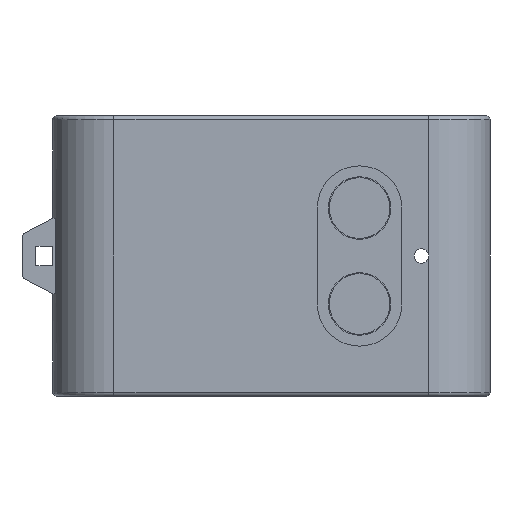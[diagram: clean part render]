
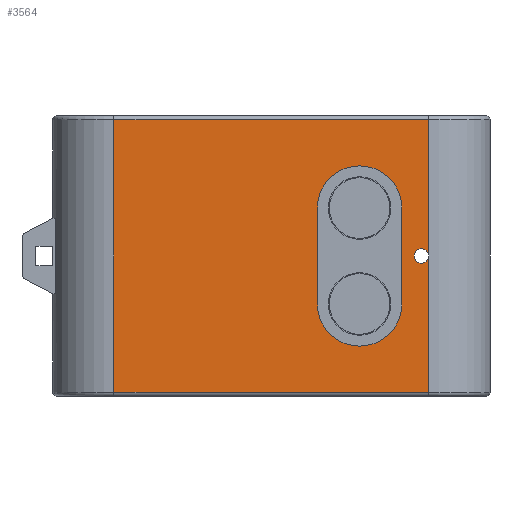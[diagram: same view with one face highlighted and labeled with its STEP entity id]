
A CAD part, front view. The second image highlights one B-rep face of the part: STEP entity #3564.
In plain terms, the highlighted planar face has unit normal (0, -1, 0).
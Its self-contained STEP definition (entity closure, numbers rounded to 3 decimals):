
#45 = VECTOR ( 'NONE', #1368, 1000. ) ;
#56 = CARTESIAN_POINT ( 'NONE',  ( 20.516, -7.5, -17.75 ) ) ;
#118 = DIRECTION ( 'NONE',  ( 0., 0., 1. ) ) ;
#144 = CARTESIAN_POINT ( 'NONE',  ( -20.516, -7.5, -18.25 ) ) ;
#150 = DIRECTION ( 'NONE',  ( -1., 0., 0. ) ) ;
#164 = DIRECTION ( 'NONE',  ( 0., 1., 0. ) ) ;
#176 = CARTESIAN_POINT ( 'NONE',  ( 19.55, -7.5, 0. ) ) ;
#202 = ORIENTED_EDGE ( 'NONE', *, *, #3910, .F. ) ;
#243 = AXIS2_PLACEMENT_3D ( 'NONE', #3706, #3687, #1895 ) ;
#271 = AXIS2_PLACEMENT_3D ( 'NONE', #1761, #1931, #2525 ) ;
#297 = CARTESIAN_POINT ( 'NONE',  ( 20.516, -7.5, -18.25 ) ) ;
#318 = DIRECTION ( 'NONE',  ( 0., 0., 1. ) ) ;
#328 = CARTESIAN_POINT ( 'NONE',  ( 20.5, -7.5, 0. ) ) ;
#351 = LINE ( 'NONE', #2992, #3390 ) ;
#376 = ORIENTED_EDGE ( 'NONE', *, *, #3325, .T. ) ;
#428 = VERTEX_POINT ( 'NONE', #1691 ) ;
#452 = LINE ( 'NONE', #1199, #1950 ) ;
#488 = DIRECTION ( 'NONE',  ( 0., 0., 1. ) ) ;
#502 = AXIS2_PLACEMENT_3D ( 'NONE', #3584, #1515, #1053 ) ;
#513 = CIRCLE ( 'NONE', #243, 0.95 ) ;
#533 = ORIENTED_EDGE ( 'NONE', *, *, #1551, .T. ) ;
#798 = DIRECTION ( 'NONE',  ( 0., -1., 0. ) ) ;
#803 = ORIENTED_EDGE ( 'NONE', *, *, #2636, .F. ) ;
#819 = CARTESIAN_POINT ( 'NONE',  ( 17., -7.5, -6.25 ) ) ;
#840 = VECTOR ( 'NONE', #318, 1000. ) ;
#876 = CARTESIAN_POINT ( 'NONE',  ( 6., -7.5, -6.25 ) ) ;
#894 = CIRCLE ( 'NONE', #502, 5.5 ) ;
#913 = VECTOR ( 'NONE', #118, 1000. ) ;
#929 = ORIENTED_EDGE ( 'NONE', *, *, #3932, .F. ) ;
#1001 = CIRCLE ( 'NONE', #3655, 5.5 ) ;
#1053 = DIRECTION ( 'NONE',  ( 0., 0., -1. ) ) ;
#1151 = CARTESIAN_POINT ( 'NONE',  ( 6., -7.5, 6.25 ) ) ;
#1179 = VERTEX_POINT ( 'NONE', #1766 ) ;
#1199 = CARTESIAN_POINT ( 'NONE',  ( -20.516, -7.5, -17.75 ) ) ;
#1223 = CARTESIAN_POINT ( 'NONE',  ( -20.516, -7.5, -17.75 ) ) ;
#1243 = EDGE_LOOP ( 'NONE', ( #376, #3755, #2291, #2524 ) ) ;
#1279 = CARTESIAN_POINT ( 'NONE',  ( 6., -7.5, 6.25 ) ) ;
#1368 = DIRECTION ( 'NONE',  ( 0., 0., -1. ) ) ;
#1432 = CIRCLE ( 'NONE', #1960, 0.95 ) ;
#1515 = DIRECTION ( 'NONE',  ( 0., -1., 0. ) ) ;
#1551 = EDGE_CURVE ( 'NONE', #1179, #3326, #513, .T. ) ;
#1628 = VERTEX_POINT ( 'NONE', #1151 ) ;
#1691 = CARTESIAN_POINT ( 'NONE',  ( 11.5, -7.5, -11.75 ) ) ;
#1739 = PLANE ( 'NONE',  #271 ) ;
#1742 = VERTEX_POINT ( 'NONE', #2270 ) ;
#1761 = CARTESIAN_POINT ( 'NONE',  ( -20.516, -7.5, -18.25 ) ) ;
#1766 = CARTESIAN_POINT ( 'NONE',  ( 18.6, -7.5, 0. ) ) ;
#1777 = LINE ( 'NONE', #144, #913 ) ;
#1797 = EDGE_LOOP ( 'NONE', ( #3509, #3465, #929, #202, #803 ) ) ;
#1855 = VECTOR ( 'NONE', #488, 1000. ) ;
#1859 = LINE ( 'NONE', #1279, #45 ) ;
#1895 = DIRECTION ( 'NONE',  ( -1., 0., 0. ) ) ;
#1931 = DIRECTION ( 'NONE',  ( 0., -1., 0. ) ) ;
#1950 = VECTOR ( 'NONE', #3531, 1000. ) ;
#1956 = FACE_BOUND ( 'NONE', #1797, .T. ) ;
#1957 = VERTEX_POINT ( 'NONE', #3675 ) ;
#1960 = AXIS2_PLACEMENT_3D ( 'NONE', #176, #164, #150 ) ;
#2015 = CARTESIAN_POINT ( 'NONE',  ( 11.5, -7.5, 6.25 ) ) ;
#2144 = FACE_BOUND ( 'NONE', #2400, .T. ) ;
#2270 = CARTESIAN_POINT ( 'NONE',  ( -20.516, -7.5, 17.75 ) ) ;
#2291 = ORIENTED_EDGE ( 'NONE', *, *, #2650, .F. ) ;
#2400 = EDGE_LOOP ( 'NONE', ( #533, #2843 ) ) ;
#2500 = LINE ( 'NONE', #297, #840 ) ;
#2512 = EDGE_CURVE ( 'NONE', #3326, #1179, #1432, .T. ) ;
#2524 = ORIENTED_EDGE ( 'NONE', *, *, #3894, .T. ) ;
#2525 = DIRECTION ( 'NONE',  ( 0., 0., -1. ) ) ;
#2599 = VERTEX_POINT ( 'NONE', #819 ) ;
#2636 = EDGE_CURVE ( 'NONE', #428, #2599, #3328, .T. ) ;
#2646 = CARTESIAN_POINT ( 'NONE',  ( 11.5, -7.5, -6.25 ) ) ;
#2650 = EDGE_CURVE ( 'NONE', #3537, #1742, #1777, .T. ) ;
#2662 = DIRECTION ( 'NONE',  ( -1., 0., 0. ) ) ;
#2722 = LINE ( 'NONE', #3391, #1855 ) ;
#2832 = DIRECTION ( 'NONE',  ( 0., 0., -1. ) ) ;
#2843 = ORIENTED_EDGE ( 'NONE', *, *, #2512, .T. ) ;
#2924 = VERTEX_POINT ( 'NONE', #3146 ) ;
#2935 = DIRECTION ( 'NONE',  ( 0., 0., -1. ) ) ;
#2992 = CARTESIAN_POINT ( 'NONE',  ( -20.516, -7.5, 17.75 ) ) ;
#3146 = CARTESIAN_POINT ( 'NONE',  ( 17., -7.5, 6.25 ) ) ;
#3295 = DIRECTION ( 'NONE',  ( 0., -1., 0. ) ) ;
#3325 = EDGE_CURVE ( 'NONE', #3612, #1957, #2500, .T. ) ;
#3326 = VERTEX_POINT ( 'NONE', #328 ) ;
#3328 = CIRCLE ( 'NONE', #3692, 5.5 ) ;
#3390 = VECTOR ( 'NONE', #2662, 1000. ) ;
#3391 = CARTESIAN_POINT ( 'NONE',  ( 17., -7.5, 6.25 ) ) ;
#3422 = VERTEX_POINT ( 'NONE', #876 ) ;
#3465 = ORIENTED_EDGE ( 'NONE', *, *, #3583, .F. ) ;
#3483 = FACE_OUTER_BOUND ( 'NONE', #1243, .T. ) ;
#3509 = ORIENTED_EDGE ( 'NONE', *, *, #3591, .F. ) ;
#3531 = DIRECTION ( 'NONE',  ( 1., 0., 0. ) ) ;
#3537 = VERTEX_POINT ( 'NONE', #1223 ) ;
#3564 = ADVANCED_FACE ( 'NONE', ( #2144, #1956, #3483 ), #1739, .T. ) ;
#3583 = EDGE_CURVE ( 'NONE', #1628, #3422, #1859, .T. ) ;
#3584 = CARTESIAN_POINT ( 'NONE',  ( 11.5, -7.5, -6.25 ) ) ;
#3591 = EDGE_CURVE ( 'NONE', #3422, #428, #894, .T. ) ;
#3612 = VERTEX_POINT ( 'NONE', #56 ) ;
#3655 = AXIS2_PLACEMENT_3D ( 'NONE', #2015, #3295, #2832 ) ;
#3675 = CARTESIAN_POINT ( 'NONE',  ( 20.516, -7.5, 17.75 ) ) ;
#3687 = DIRECTION ( 'NONE',  ( 0., 1., 0. ) ) ;
#3692 = AXIS2_PLACEMENT_3D ( 'NONE', #2646, #798, #2935 ) ;
#3706 = CARTESIAN_POINT ( 'NONE',  ( 19.55, -7.5, 0. ) ) ;
#3755 = ORIENTED_EDGE ( 'NONE', *, *, #3901, .T. ) ;
#3894 = EDGE_CURVE ( 'NONE', #3537, #3612, #452, .T. ) ;
#3901 = EDGE_CURVE ( 'NONE', #1957, #1742, #351, .T. ) ;
#3910 = EDGE_CURVE ( 'NONE', #2599, #2924, #2722, .T. ) ;
#3932 = EDGE_CURVE ( 'NONE', #2924, #1628, #1001, .T. ) ;
